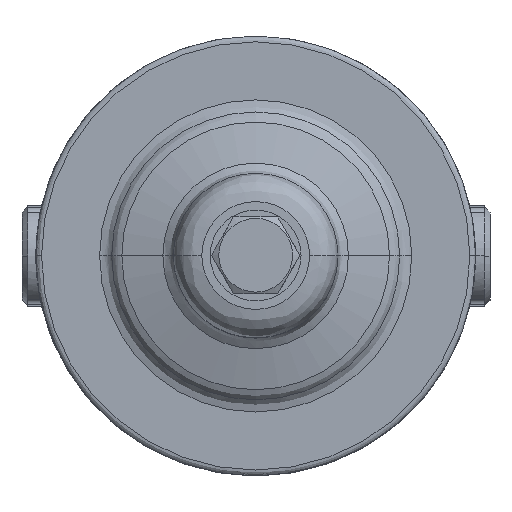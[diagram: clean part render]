
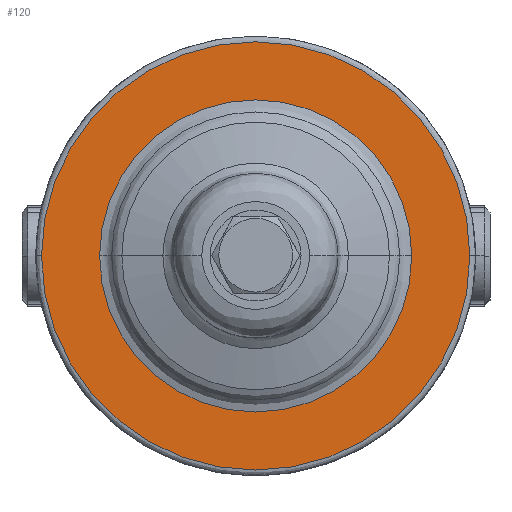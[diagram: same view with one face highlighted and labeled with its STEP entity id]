
A CAD part, top view. The second image highlights one B-rep face of the part: STEP entity #120.
In plain terms, the highlighted planar face has unit normal (0, 0, 1).
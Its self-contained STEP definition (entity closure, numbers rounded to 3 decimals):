
#120=ADVANCED_FACE('',(#1023,#1024),#1022,.F.);
#1022=PLANE('',#3250);
#1023=FACE_OUTER_BOUND('',#3251,.T.);
#1024=FACE_BOUND('',#3252,.T.);
#3247=CARTESIAN_POINT('',(161.,-140.77,46.254));
#3248=DIRECTION('',(0.,0.,-1.));
#3249=DIRECTION('',(-1.,0.,0.));
#3250=AXIS2_PLACEMENT_3D('',#3247,#3248,#3249);
#3251=EDGE_LOOP('',(#5307,#5308));
#3252=EDGE_LOOP('',(#5309,#5310));
#5307=ORIENTED_EDGE('',*,*,#6025,.T.);
#5308=ORIENTED_EDGE('',*,*,#6026,.T.);
#5309=ORIENTED_EDGE('',*,*,#6027,.T.);
#5310=ORIENTED_EDGE('',*,*,#6028,.T.);
#6025=EDGE_CURVE('',#7899,#7900,#7901,.T.);
#6026=EDGE_CURVE('',#7900,#7899,#7907,.T.);
#6027=EDGE_CURVE('',#7913,#7914,#7915,.T.);
#6028=EDGE_CURVE('',#7914,#7913,#7921,.T.);
#7899=VERTEX_POINT('',#10758);
#7900=VERTEX_POINT('',#10759);
#7901=CIRCLE('',#10763,75.5);
#7907=CIRCLE('',#10767,75.5);
#7913=VERTEX_POINT('',#10768);
#7914=VERTEX_POINT('',#10769);
#7915=CIRCLE('',#10773,55.026);
#7921=CIRCLE('',#10777,55.026);
#10758=CARTESIAN_POINT('',(-75.5,0.,46.254));
#10759=CARTESIAN_POINT('',(75.5,0.,46.254));
#10760=CARTESIAN_POINT('',(0.,0.,46.254));
#10761=DIRECTION('',(0.,0.,1.));
#10762=DIRECTION('',(-1.,0.,0.));
#10763=AXIS2_PLACEMENT_3D('',#10760,#10761,#10762);
#10764=CARTESIAN_POINT('',(0.,0.,46.254));
#10765=DIRECTION('',(0.,0.,1.));
#10766=DIRECTION('',(-1.,0.,0.));
#10767=AXIS2_PLACEMENT_3D('',#10764,#10765,#10766);
#10768=CARTESIAN_POINT('',(-55.026,0.,46.254));
#10769=CARTESIAN_POINT('',(55.026,0.,46.254));
#10770=CARTESIAN_POINT('',(0.,0.,46.254));
#10771=DIRECTION('',(0.,0.,-1.));
#10772=DIRECTION('',(-1.,0.,0.));
#10773=AXIS2_PLACEMENT_3D('',#10770,#10771,#10772);
#10774=CARTESIAN_POINT('',(0.,0.,46.254));
#10775=DIRECTION('',(0.,0.,-1.));
#10776=DIRECTION('',(-1.,0.,0.));
#10777=AXIS2_PLACEMENT_3D('',#10774,#10775,#10776);
